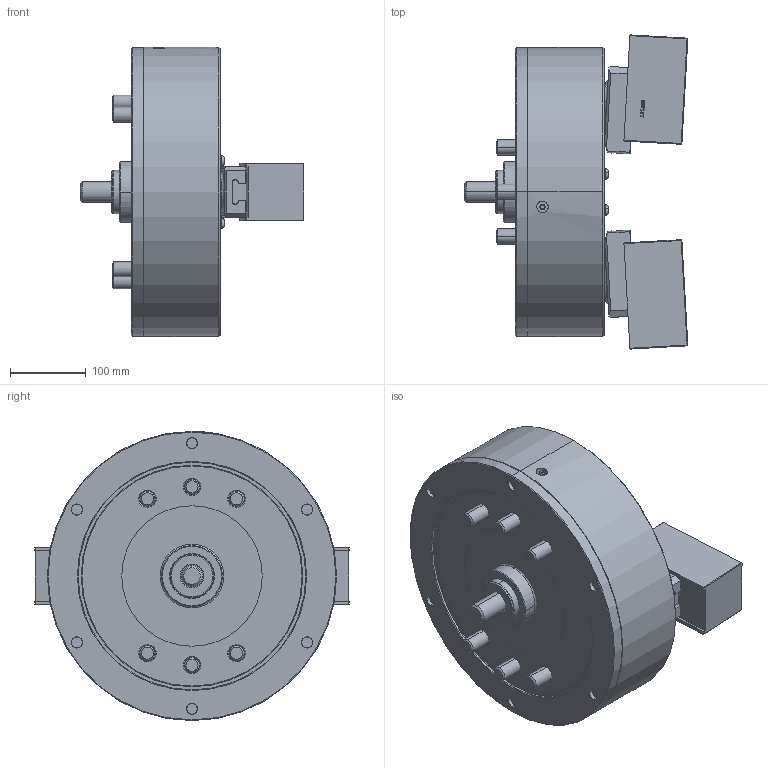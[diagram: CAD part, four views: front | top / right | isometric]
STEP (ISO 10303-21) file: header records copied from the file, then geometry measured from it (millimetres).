
FILE_DESCRIPTION (( 'STEP AP214' ), '1' );
FILE_NAME ('PWT15_UC_ID.STEP', '2019-10-23T01:33:08', ( '' ), ( '' ), 'SwSTEP 2.0', 'SolidWorks 2017', '' );
FILE_SCHEMA (( 'AUTOMOTIVE_DESIGN' ));
Length unit declared in the file: millimetre
Products named in the file (5): 結合_ID; 0030120030; 61P422878; 61P334597; PWT15_UC_ID
Assembly tree (9 placements, depth 2):
  PWT15_UC_ID
    61P334597  x2
    61P422878  x2
    0030120030  x4
    結合_ID
Bounding box: 294.68 x 413.75 x 381 mm (x, y, z)
Volume: 14914701.6 mm3; surface area: 758874.9 mm2
Topology: 9 solids, 10 shells, 1641 faces, 4021 edges, 2520 vertices
Faces by surface type: plane 873, cone 269, cylinder 234, bspline 209, torus 52, sphere 4
Entity records: 47118 total; most frequent: CARTESIAN_POINT 15716, ORIENTED_EDGE 6686, DIRECTION 5958, EDGE_CURVE 3343, VERTEX_POINT 2107, AXIS2_PLACEMENT_3D 1989, LINE 1980, VECTOR 1980
